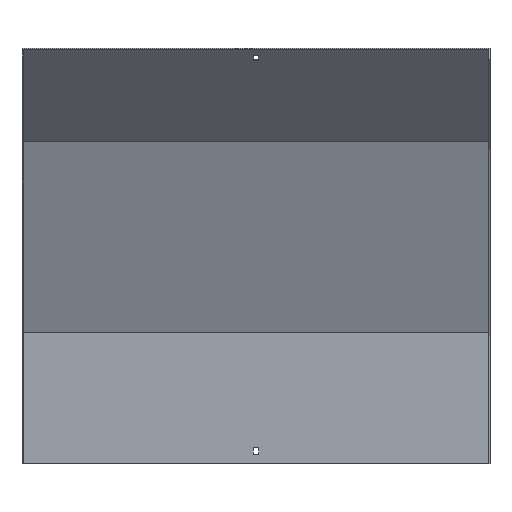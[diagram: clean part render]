
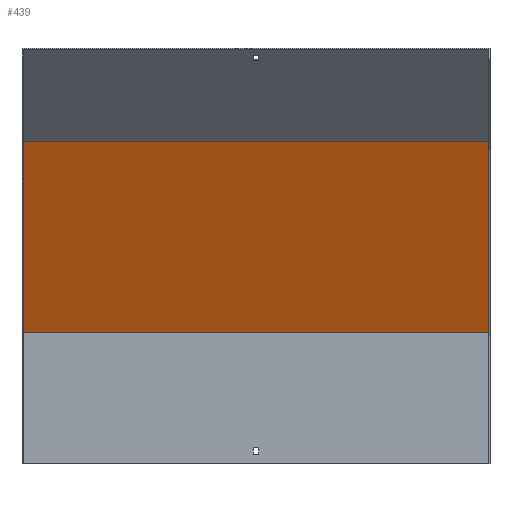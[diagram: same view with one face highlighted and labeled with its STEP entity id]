
A CAD part, front view. The second image highlights one B-rep face of the part: STEP entity #439.
In plain terms, the highlighted planar face has unit normal (0, -0.924, -0.383).
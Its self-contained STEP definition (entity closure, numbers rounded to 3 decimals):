
#22 = CARTESIAN_POINT ( 'NONE',  ( 300., -83.431, 414.764 ) ) ;
#26 = CARTESIAN_POINT ( 'NONE',  ( -300., -83.431, 414.764 ) ) ;
#47 = EDGE_CURVE ( 'NONE', #187, #198, #836, .T. ) ;
#56 = CARTESIAN_POINT ( 'NONE',  ( 301.5, 17.092, 172.08 ) ) ;
#92 = CARTESIAN_POINT ( 'NONE',  ( -300., 75.428, 31.243 ) ) ;
#139 = CARTESIAN_POINT ( 'NONE',  ( 300., 18.5, 168.68 ) ) ;
#148 = EDGE_CURVE ( 'NONE', #585, #849, #667, .T. ) ;
#164 = VECTOR ( 'NONE', #242, 1000. ) ;
#175 = LINE ( 'NONE', #92, #164 ) ;
#187 = VERTEX_POINT ( 'NONE', #139 ) ;
#198 = VERTEX_POINT ( 'NONE', #723 ) ;
#209 = LINE ( 'NONE', #415, #598 ) ;
#236 = DIRECTION ( 'NONE',  ( -1., 0., 0. ) ) ;
#242 = DIRECTION ( 'NONE',  ( 0., -0.383, 0.924 ) ) ;
#251 = VECTOR ( 'NONE', #604, 1000. ) ;
#267 = FACE_OUTER_BOUND ( 'NONE', #453, .T. ) ;
#269 = CARTESIAN_POINT ( 'NONE',  ( 301.5, -83.431, 414.764 ) ) ;
#302 = ORIENTED_EDGE ( 'NONE', *, *, #338, .F. ) ;
#304 = VECTOR ( 'NONE', #236, 1000. ) ;
#338 = EDGE_CURVE ( 'NONE', #198, #849, #175, .T. ) ;
#367 = AXIS2_PLACEMENT_3D ( 'NONE', #56, #465, #596 ) ;
#415 = CARTESIAN_POINT ( 'NONE',  ( 300., 75.428, 31.243 ) ) ;
#429 = CARTESIAN_POINT ( 'NONE',  ( 301.5, 18.5, 168.68 ) ) ;
#439 = ADVANCED_FACE ( 'NONE', ( #267 ), #651, .T. ) ;
#453 = EDGE_LOOP ( 'NONE', ( #302, #633, #661, #593 ) ) ;
#465 = DIRECTION ( 'NONE',  ( 0., -0.924, -0.383 ) ) ;
#475 = DIRECTION ( 'NONE',  ( 0., -0.383, 0.924 ) ) ;
#585 = VERTEX_POINT ( 'NONE', #22 ) ;
#593 = ORIENTED_EDGE ( 'NONE', *, *, #148, .T. ) ;
#596 = DIRECTION ( 'NONE',  ( 0., 0.383, -0.924 ) ) ;
#598 = VECTOR ( 'NONE', #475, 1000. ) ;
#604 = DIRECTION ( 'NONE',  ( -1., 0., 0. ) ) ;
#633 = ORIENTED_EDGE ( 'NONE', *, *, #47, .F. ) ;
#651 = PLANE ( 'NONE',  #367 ) ;
#661 = ORIENTED_EDGE ( 'NONE', *, *, #738, .T. ) ;
#667 = LINE ( 'NONE', #269, #251 ) ;
#723 = CARTESIAN_POINT ( 'NONE',  ( -300., 18.5, 168.68 ) ) ;
#738 = EDGE_CURVE ( 'NONE', #187, #585, #209, .T. ) ;
#836 = LINE ( 'NONE', #429, #304 ) ;
#849 = VERTEX_POINT ( 'NONE', #26 ) ;
